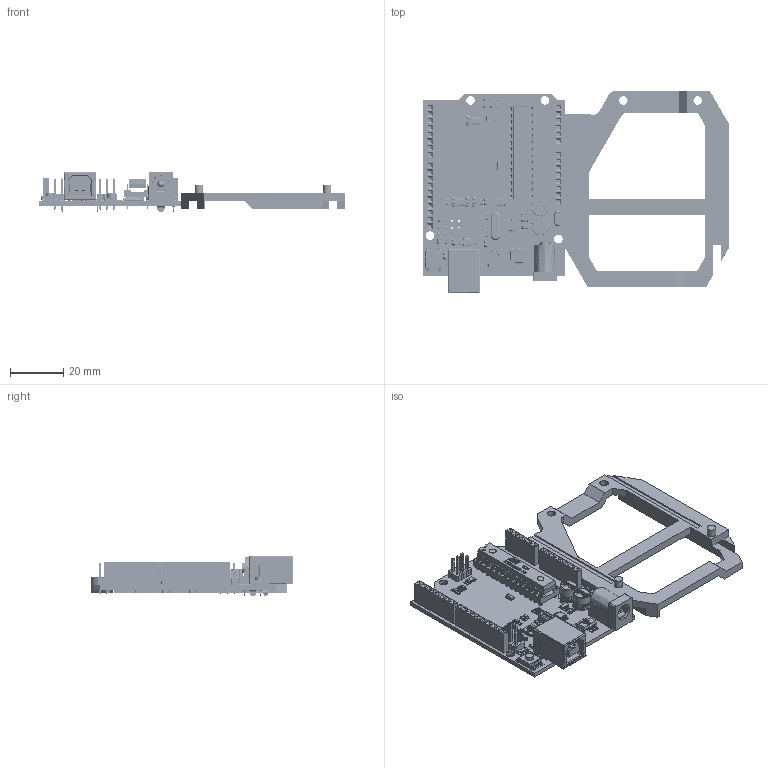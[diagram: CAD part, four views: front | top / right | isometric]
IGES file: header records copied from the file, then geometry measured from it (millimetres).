
Global section: file name: Base arduino; native system: unknown; preprocessor: unknown; author: unknown; organization: unknown; date: 20260718.003833; units: millimetre
Bounding box: 114.84 x 75.98 x 15.25 mm (x, y, z)
Volume: 20253.8 mm3; surface area: 28948.8 mm2
Topology: 159 solids, 159 shells, 8493 faces, 22818 edges, 15000 vertices
Faces by surface type: bspline 8493
